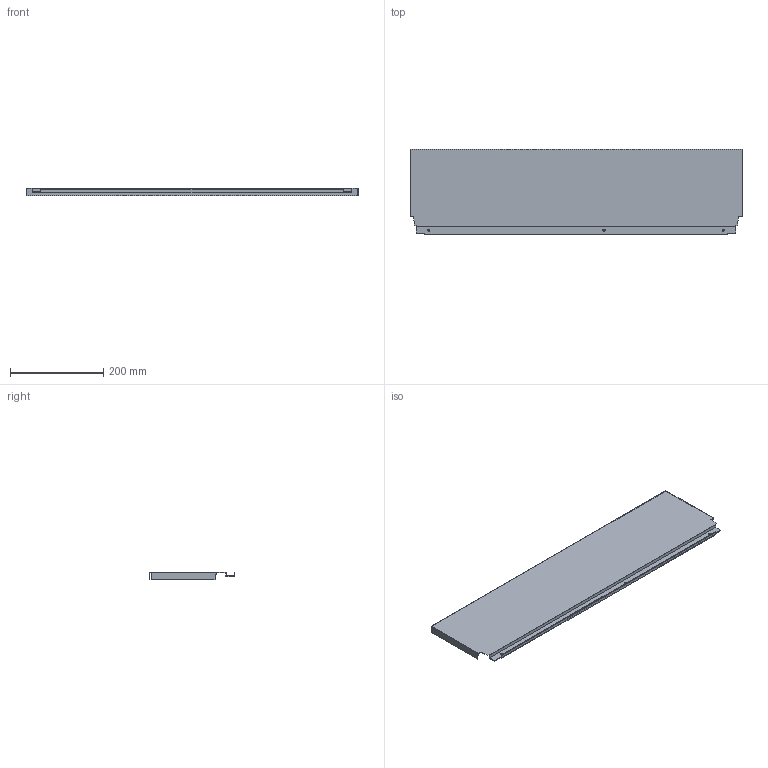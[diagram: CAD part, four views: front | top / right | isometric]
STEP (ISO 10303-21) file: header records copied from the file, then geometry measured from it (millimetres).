
FILE_DESCRIPTION (( 'STEP AP214' ), '1' );
FILE_NAME ('_DWD_XP Stahlrückwand_H182_KAB800_S19.step', '2010-07-08T12:58:09', ( 'grass' ), ( '' ), 'SwSTEP 2.0', 'SolidWorks 2010', '' );
FILE_SCHEMA (( 'AUTOMOTIVE_DESIGN' ));
Length unit declared in the file: millimetre
Products named in the file (1): _DWD_XP Stahlrückwand_H182_KAB800_S19
Bounding box: 711 x 182.49 x 16 mm (x, y, z)
Volume: 133581.1 mm3; surface area: 309177 mm2
Topology: 1 solids, 1 shells, 46 faces, 132 edges, 88 vertices
Faces by surface type: plane 40, cylinder 6
Entity records: 1534 total; most frequent: CARTESIAN_POINT 267, ORIENTED_EDGE 264, DIRECTION 238, EDGE_CURVE 132, VECTOR 120, LINE 120, VERTEX_POINT 88, AXIS2_PLACEMENT_3D 59
